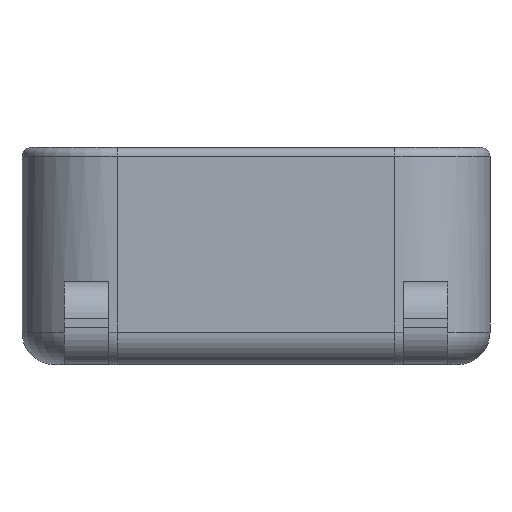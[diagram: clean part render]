
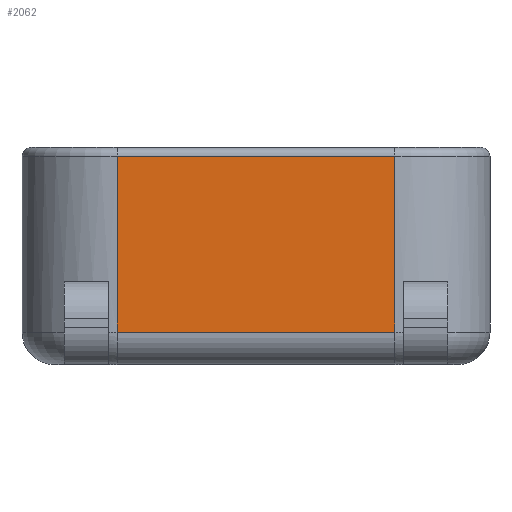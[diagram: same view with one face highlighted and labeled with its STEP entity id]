
A CAD part, left-side view. The second image highlights one B-rep face of the part: STEP entity #2062.
In plain terms, the highlighted planar face has unit normal (-1, 0, 0).
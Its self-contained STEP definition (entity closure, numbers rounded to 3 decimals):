
#44 = CYLINDRICAL_SURFACE('',#45,6.45);
#45 = AXIS2_PLACEMENT_3D('',#46,#47,#48);
#46 = CARTESIAN_POINT('',(3.4,3.4,-2.2));
#47 = DIRECTION('',(0.,0.,1.));
#48 = DIRECTION('',(0.,-1.,0.));
#1583 = CYLINDRICAL_SURFACE('',#1584,0.6);
#1584 = AXIS2_PLACEMENT_3D('',#1585,#1586,#1587);
#1585 = CARTESIAN_POINT('',(-2.45,22.2,11.9));
#1586 = DIRECTION('',(0.,-1.,0.));
#1587 = DIRECTION('',(-1.,-0.,0.));
#1946 = VERTEX_POINT('',#1947);
#1947 = CARTESIAN_POINT('',(-3.05,3.4,11.9));
#2014 = VERTEX_POINT('',#2015);
#2015 = CARTESIAN_POINT('',(-3.05,22.2,11.9));
#2037 = EDGE_CURVE('',#2014,#1946,#2038,.T.);
#2038 = SURFACE_CURVE('',#2039,(#2043,#2050),.PCURVE_S1.);
#2039 = LINE('',#2040,#2041);
#2040 = CARTESIAN_POINT('',(-3.05,22.2,11.9));
#2041 = VECTOR('',#2042,1.);
#2042 = DIRECTION('',(0.,-1.,0.));
#2043 = PCURVE('',#1583,#2044);
#2044 = DEFINITIONAL_REPRESENTATION('',(#2045),#2049);
#2045 = LINE('',#2046,#2047);
#2046 = CARTESIAN_POINT('',(-0.,0.));
#2047 = VECTOR('',#2048,1.);
#2048 = DIRECTION('',(-0.,1.));
#2049 = ( GEOMETRIC_REPRESENTATION_CONTEXT(2) 
PARAMETRIC_REPRESENTATION_CONTEXT() REPRESENTATION_CONTEXT('2D SPACE',''
  ) );
#2050 = PCURVE('',#2051,#2056);
#2051 = PLANE('',#2052);
#2052 = AXIS2_PLACEMENT_3D('',#2053,#2054,#2055);
#2053 = CARTESIAN_POINT('',(-3.05,28.65,-2.2));
#2054 = DIRECTION('',(1.,0.,-0.));
#2055 = DIRECTION('',(0.,-1.,0.));
#2056 = DEFINITIONAL_REPRESENTATION('',(#2057),#2061);
#2057 = LINE('',#2058,#2059);
#2058 = CARTESIAN_POINT('',(6.45,-14.1));
#2059 = VECTOR('',#2060,1.);
#2060 = DIRECTION('',(1.,0.));
#2061 = ( GEOMETRIC_REPRESENTATION_CONTEXT(2) 
PARAMETRIC_REPRESENTATION_CONTEXT() REPRESENTATION_CONTEXT('2D SPACE',''
  ) );
#2062 = ADVANCED_FACE('',(#2063),#2051,.F.);
#2063 = FACE_BOUND('',#2064,.F.);
#2064 = EDGE_LOOP('',(#2065,#2093,#2094,#2117));
#2065 = ORIENTED_EDGE('',*,*,#2066,.T.);
#2066 = EDGE_CURVE('',#2067,#2014,#2069,.T.);
#2067 = VERTEX_POINT('',#2068);
#2068 = CARTESIAN_POINT('',(-3.05,22.2,0.));
#2069 = SURFACE_CURVE('',#2070,(#2074,#2081),.PCURVE_S1.);
#2070 = LINE('',#2071,#2072);
#2071 = CARTESIAN_POINT('',(-3.05,22.2,-2.2));
#2072 = VECTOR('',#2073,1.);
#2073 = DIRECTION('',(0.,0.,1.));
#2074 = PCURVE('',#2051,#2075);
#2075 = DEFINITIONAL_REPRESENTATION('',(#2076),#2080);
#2076 = LINE('',#2077,#2078);
#2077 = CARTESIAN_POINT('',(6.45,0.));
#2078 = VECTOR('',#2079,1.);
#2079 = DIRECTION('',(0.,-1.));
#2080 = ( GEOMETRIC_REPRESENTATION_CONTEXT(2) 
PARAMETRIC_REPRESENTATION_CONTEXT() REPRESENTATION_CONTEXT('2D SPACE',''
  ) );
#2081 = PCURVE('',#2082,#2087);
#2082 = CYLINDRICAL_SURFACE('',#2083,6.45);
#2083 = AXIS2_PLACEMENT_3D('',#2084,#2085,#2086);
#2084 = CARTESIAN_POINT('',(3.4,22.2,-2.2));
#2085 = DIRECTION('',(0.,0.,1.));
#2086 = DIRECTION('',(-0.,1.,0.));
#2087 = DEFINITIONAL_REPRESENTATION('',(#2088),#2092);
#2088 = LINE('',#2089,#2090);
#2089 = CARTESIAN_POINT('',(1.571,0.));
#2090 = VECTOR('',#2091,1.);
#2091 = DIRECTION('',(0.,1.));
#2092 = ( GEOMETRIC_REPRESENTATION_CONTEXT(2) 
PARAMETRIC_REPRESENTATION_CONTEXT() REPRESENTATION_CONTEXT('2D SPACE',''
  ) );
#2093 = ORIENTED_EDGE('',*,*,#2037,.T.);
#2094 = ORIENTED_EDGE('',*,*,#2095,.F.);
#2095 = EDGE_CURVE('',#2096,#1946,#2098,.T.);
#2096 = VERTEX_POINT('',#2097);
#2097 = CARTESIAN_POINT('',(-3.05,3.4,0.));
#2098 = SURFACE_CURVE('',#2099,(#2103,#2110),.PCURVE_S1.);
#2099 = LINE('',#2100,#2101);
#2100 = CARTESIAN_POINT('',(-3.05,3.4,-2.2));
#2101 = VECTOR('',#2102,1.);
#2102 = DIRECTION('',(0.,0.,1.));
#2103 = PCURVE('',#2051,#2104);
#2104 = DEFINITIONAL_REPRESENTATION('',(#2105),#2109);
#2105 = LINE('',#2106,#2107);
#2106 = CARTESIAN_POINT('',(25.25,0.));
#2107 = VECTOR('',#2108,1.);
#2108 = DIRECTION('',(0.,-1.));
#2109 = ( GEOMETRIC_REPRESENTATION_CONTEXT(2) 
PARAMETRIC_REPRESENTATION_CONTEXT() REPRESENTATION_CONTEXT('2D SPACE',''
  ) );
#2110 = PCURVE('',#44,#2111);
#2111 = DEFINITIONAL_REPRESENTATION('',(#2112),#2116);
#2112 = LINE('',#2113,#2114);
#2113 = CARTESIAN_POINT('',(-1.571,0.));
#2114 = VECTOR('',#2115,1.);
#2115 = DIRECTION('',(-0.,1.));
#2116 = ( GEOMETRIC_REPRESENTATION_CONTEXT(2) 
PARAMETRIC_REPRESENTATION_CONTEXT() REPRESENTATION_CONTEXT('2D SPACE',''
  ) );
#2117 = ORIENTED_EDGE('',*,*,#2118,.F.);
#2118 = EDGE_CURVE('',#2067,#2096,#2119,.T.);
#2119 = SURFACE_CURVE('',#2120,(#2124,#2131),.PCURVE_S1.);
#2120 = LINE('',#2121,#2122);
#2121 = CARTESIAN_POINT('',(-3.05,22.2,0.));
#2122 = VECTOR('',#2123,1.);
#2123 = DIRECTION('',(0.,-1.,0.));
#2124 = PCURVE('',#2051,#2125);
#2125 = DEFINITIONAL_REPRESENTATION('',(#2126),#2130);
#2126 = LINE('',#2127,#2128);
#2127 = CARTESIAN_POINT('',(6.45,-2.2));
#2128 = VECTOR('',#2129,1.);
#2129 = DIRECTION('',(1.,0.));
#2130 = ( GEOMETRIC_REPRESENTATION_CONTEXT(2) 
PARAMETRIC_REPRESENTATION_CONTEXT() REPRESENTATION_CONTEXT('2D SPACE',''
  ) );
#2131 = PCURVE('',#2132,#2137);
#2132 = CYLINDRICAL_SURFACE('',#2133,2.2);
#2133 = AXIS2_PLACEMENT_3D('',#2134,#2135,#2136);
#2134 = CARTESIAN_POINT('',(-0.85,22.2,0.));
#2135 = DIRECTION('',(0.,-1.,0.));
#2136 = DIRECTION('',(-1.,-0.,0.));
#2137 = DEFINITIONAL_REPRESENTATION('',(#2138),#2142);
#2138 = LINE('',#2139,#2140);
#2139 = CARTESIAN_POINT('',(0.,0.));
#2140 = VECTOR('',#2141,1.);
#2141 = DIRECTION('',(0.,1.));
#2142 = ( GEOMETRIC_REPRESENTATION_CONTEXT(2) 
PARAMETRIC_REPRESENTATION_CONTEXT() REPRESENTATION_CONTEXT('2D SPACE',''
  ) );
